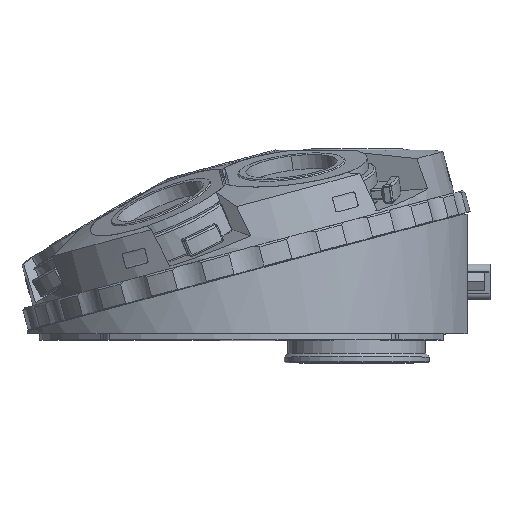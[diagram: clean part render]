
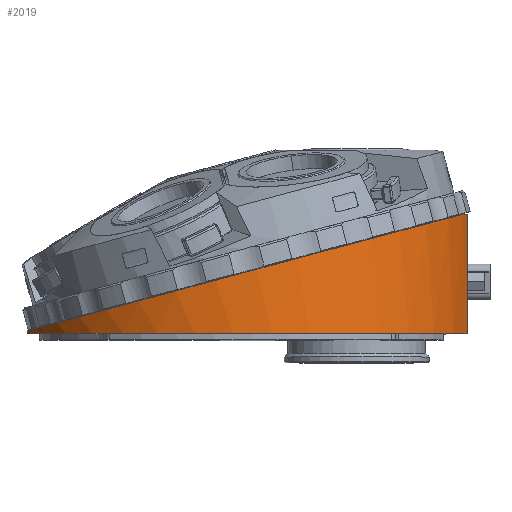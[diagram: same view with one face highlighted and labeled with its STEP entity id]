
A CAD part, top view. The second image highlights one B-rep face of the part: STEP entity #2019.
In plain terms, the highlighted cylindrical face has radius 60.325 mm (diameter 120.65 mm), a partial arc.
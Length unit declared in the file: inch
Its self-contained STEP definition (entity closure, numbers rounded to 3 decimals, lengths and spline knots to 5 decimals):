
#773 = CARTESIAN_POINT ( 'NONE',  ( -3.38676, 1.315, 0.78144 ) ) ;
#2019 = ADVANCED_FACE ( 'NONE', ( #28602 ), #72204, .T. ) ;
#6528 = DIRECTION ( 'NONE',  ( 0., -1., 0. ) ) ;
#6639 = AXIS2_PLACEMENT_3D ( 'NONE', #68413, #6528, #49653 ) ;
#7193 = EDGE_CURVE ( 'NONE', #52220, #39345, #54593, .T. ) ;
#7272 = EDGE_CURVE ( 'NONE', #40465, #52220, #7306, .T. ) ;
#7306 = LINE ( 'NONE', #32083, #44155 ) ;
#8586 = DIRECTION ( 'NONE',  ( 0., 0., -1. ) ) ;
#9258 = CIRCLE ( 'NONE', #6639, 2.375 ) ;
#13039 = AXIS2_PLACEMENT_3D ( 'NONE', #74508, #62671, #31293 ) ;
#13473 = VERTEX_POINT ( 'NONE', #75747 ) ;
#15457 = ORIENTED_EDGE ( 'NONE', *, *, #25609, .F. ) ;
#18782 = CARTESIAN_POINT ( 'NONE',  ( 1.09336, 1.295, 0.79677 ) ) ;
#20737 = DIRECTION ( 'NONE',  ( 0., 1., 0. ) ) ;
#20932 = CARTESIAN_POINT ( 'NONE',  ( 1.09336, 1.295, 0.79677 ) ) ;
#21719 = EDGE_CURVE ( 'NONE', #13473, #23249, #56564, .T. ) ;
#23157 = CARTESIAN_POINT ( 'NONE',  ( 1.1379, 0.065, 0.65844 ) ) ;
#23249 = VERTEX_POINT ( 'NONE', #43902 ) ;
#24308 =( BOUNDED_CURVE ( )  B_SPLINE_CURVE ( 3, ( #20932, #38831, #39652, #40049 ),
 .UNSPECIFIED., .F., .F. ) 
 B_SPLINE_CURVE_WITH_KNOTS ( ( 4, 4 ),
 ( 3.48371, 5.94791 ),
 .UNSPECIFIED. ) 
 CURVE ( )  GEOMETRIC_REPRESENTATION_ITEM ( )  RATIONAL_B_SPLINE_CURVE ( ( 1., 0.555, 0.555, 1. ) ) 
 REPRESENTATION_ITEM ( '' )  );
#25605 = DIRECTION ( 'NONE',  ( 0., -1., 0. ) ) ;
#25609 = EDGE_CURVE ( 'NONE', #40465, #23249, #9258, .T. ) ;
#28602 = FACE_OUTER_BOUND ( 'NONE', #49463, .T. ) ;
#31293 = DIRECTION ( 'NONE',  ( 0., 0., -1. ) ) ;
#32083 = CARTESIAN_POINT ( 'NONE',  ( 1.1379, 1.315, 0.65844 ) ) ;
#33314 = ORIENTED_EDGE ( 'NONE', *, *, #46102, .T. ) ;
#33780 = CARTESIAN_POINT ( 'NONE',  ( 1.1379, 1.295, 0.65844 ) ) ;
#34508 = AXIS2_PLACEMENT_3D ( 'NONE', #52509, #20737, #8586 ) ;
#36574 = DIRECTION ( 'NONE',  ( 0., 1., 0. ) ) ;
#38831 = CARTESIAN_POINT ( 'NONE',  ( 0.19038, 1.05305, 3.33235 ) ) ;
#39345 = VERTEX_POINT ( 'NONE', #18782 ) ;
#39616 = VECTOR ( 'NONE', #25605, 39.37008 ) ;
#39652 = CARTESIAN_POINT ( 'NONE',  ( -2.50117, 0.33185, 3.32314 ) ) ;
#40049 = CARTESIAN_POINT ( 'NONE',  ( -3.38676, 0.09456, 0.78144 ) ) ;
#40465 = VERTEX_POINT ( 'NONE', #23157 ) ;
#41818 = ORIENTED_EDGE ( 'NONE', *, *, #7272, .T. ) ;
#43902 = CARTESIAN_POINT ( 'NONE',  ( -3.38676, 0.065, 0.78144 ) ) ;
#44155 = VECTOR ( 'NONE', #36574, 39.37008 ) ;
#46102 = EDGE_CURVE ( 'NONE', #39345, #13473, #24308, .T. ) ;
#49463 = EDGE_LOOP ( 'NONE', ( #33314, #57584, #15457, #41818, #59566 ) ) ;
#49653 = DIRECTION ( 'NONE',  ( 0., 0., -1. ) ) ;
#52220 = VERTEX_POINT ( 'NONE', #33780 ) ;
#52509 = CARTESIAN_POINT ( 'NONE',  ( -1.144, 1.315, 0. ) ) ;
#54593 = CIRCLE ( 'NONE', #13039, 2.375 ) ;
#56564 = LINE ( 'NONE', #773, #39616 ) ;
#57584 = ORIENTED_EDGE ( 'NONE', *, *, #21719, .T. ) ;
#59566 = ORIENTED_EDGE ( 'NONE', *, *, #7193, .T. ) ;
#62671 = DIRECTION ( 'NONE',  ( 0., -1., 0. ) ) ;
#68413 = CARTESIAN_POINT ( 'NONE',  ( -1.144, 0.065, 0. ) ) ;
#72204 = CYLINDRICAL_SURFACE ( 'NONE', #34508, 2.375 ) ;
#74508 = CARTESIAN_POINT ( 'NONE',  ( -1.144, 1.295, 0. ) ) ;
#75747 = CARTESIAN_POINT ( 'NONE',  ( -3.38676, 0.09456, 0.78144 ) ) ;
